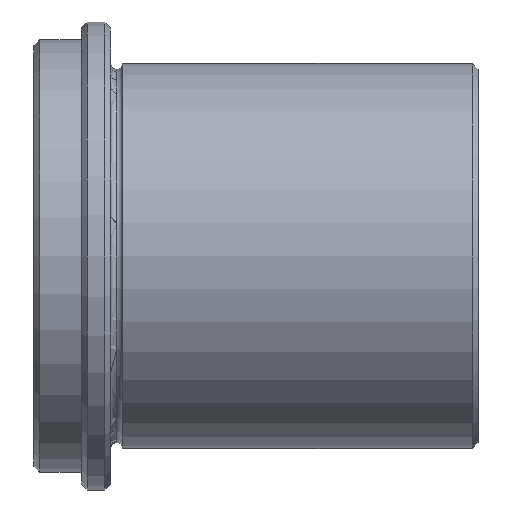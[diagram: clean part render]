
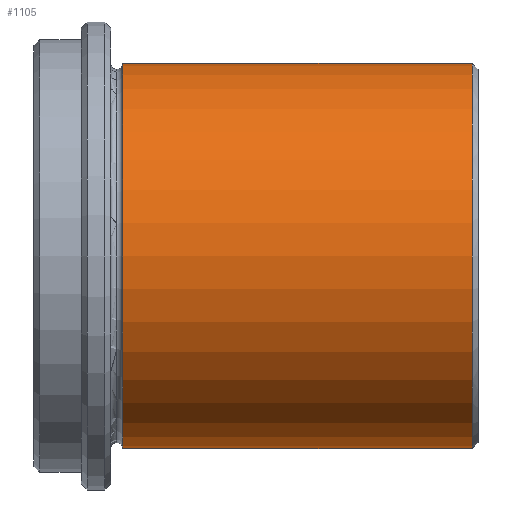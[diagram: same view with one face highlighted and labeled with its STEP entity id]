
A CAD part, left-side view. The second image highlights one B-rep face of the part: STEP entity #1105.
In plain terms, the highlighted cylindrical face has radius 32.5 mm (diameter 65 mm), a partial arc.
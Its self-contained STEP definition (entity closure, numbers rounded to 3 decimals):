
#947=CARTESIAN_POINT('Vertex',(0.,1.,32.5)) ;
#954=CARTESIAN_POINT('Vertex',(0.,1.,-32.5)) ;
#983=CARTESIAN_POINT('Axis2P3D Location',(0.,1.,0.)) ;
#987=CARTESIAN_POINT('Vertex',(-32.5,1.,0.)) ;
#990=CARTESIAN_POINT('Axis2P3D Location',(0.,1.,0.)) ;
#1015=CARTESIAN_POINT('Vertex',(0.,60.,32.5)) ;
#1022=CARTESIAN_POINT('Vertex',(0.,60.,-32.5)) ;
#1048=CARTESIAN_POINT('Axis2P3D Location',(0.,60.,0.)) ;
#1052=CARTESIAN_POINT('Vertex',(-32.5,60.,0.)) ;
#1055=CARTESIAN_POINT('Axis2P3D Location',(0.,60.,0.)) ;
#1073=CARTESIAN_POINT('Line Origine',(0.,30.5,-32.5)) ;
#1078=CARTESIAN_POINT('Line Origine',(0.,30.5,32.5)) ;
#1092=CARTESIAN_POINT('Axis2P3D Location',(0.,0.,0.)) ;
#984=DIRECTION('Axis2P3D Direction',(-0.,1.,0.)) ;
#991=DIRECTION('Axis2P3D Direction',(-0.,1.,0.)) ;
#1049=DIRECTION('Axis2P3D Direction',(0.,-1.,0.)) ;
#1056=DIRECTION('Axis2P3D Direction',(0.,-1.,0.)) ;
#1074=DIRECTION('Vector Direction',(0.,1.,0.)) ;
#1079=DIRECTION('Vector Direction',(0.,1.,0.)) ;
#1093=DIRECTION('Axis2P3D Direction',(0.,1.,0.)) ;
#1094=DIRECTION('Axis2P3D XDirection',(0.,0.,-1.)) ;
#985=AXIS2_PLACEMENT_3D('Circle Axis2P3D',#983,#984,$) ;
#992=AXIS2_PLACEMENT_3D('Circle Axis2P3D',#990,#991,$) ;
#1050=AXIS2_PLACEMENT_3D('Circle Axis2P3D',#1048,#1049,$) ;
#1057=AXIS2_PLACEMENT_3D('Circle Axis2P3D',#1055,#1056,$) ;
#1095=AXIS2_PLACEMENT_3D('Cylinder Axis2P3D',#1092,#1093,#1094) ;
#1098=ORIENTED_EDGE('',*,*,#1082,.T.) ;
#1099=ORIENTED_EDGE('',*,*,#1059,.T.) ;
#1100=ORIENTED_EDGE('',*,*,#1054,.T.) ;
#1101=ORIENTED_EDGE('',*,*,#1077,.T.) ;
#1102=ORIENTED_EDGE('',*,*,#994,.F.) ;
#1103=ORIENTED_EDGE('',*,*,#989,.F.) ;
#1075=VECTOR('Line Direction',#1074,1.) ;
#1080=VECTOR('Line Direction',#1079,1.) ;
#1105=ADVANCED_FACE('CF 439 52x75',(#1104),#1096,.T.) ;
#986=CIRCLE('generated circle',#985,32.5) ;
#993=CIRCLE('generated circle',#992,32.5) ;
#1051=CIRCLE('generated circle',#1050,32.5) ;
#1058=CIRCLE('generated circle',#1057,32.5) ;
#1096=CYLINDRICAL_SURFACE('generated cylinder',#1095,32.5) ;
#989=EDGE_CURVE('',#948,#988,#986,.F.) ;
#994=EDGE_CURVE('',#988,#955,#993,.F.) ;
#1054=EDGE_CURVE('',#1053,#1023,#1051,.T.) ;
#1059=EDGE_CURVE('',#1016,#1053,#1058,.T.) ;
#1077=EDGE_CURVE('',#1023,#955,#1076,.F.) ;
#1082=EDGE_CURVE('',#948,#1016,#1081,.T.) ;
#1097=EDGE_LOOP('',(#1098,#1099,#1100,#1101,#1102,#1103)) ;
#1104=FACE_OUTER_BOUND('',#1097,.T.) ;
#1076=LINE('Line',#1073,#1075) ;
#1081=LINE('Line',#1078,#1080) ;
#948=VERTEX_POINT('',#947) ;
#955=VERTEX_POINT('',#954) ;
#988=VERTEX_POINT('',#987) ;
#1016=VERTEX_POINT('',#1015) ;
#1023=VERTEX_POINT('',#1022) ;
#1053=VERTEX_POINT('',#1052) ;
